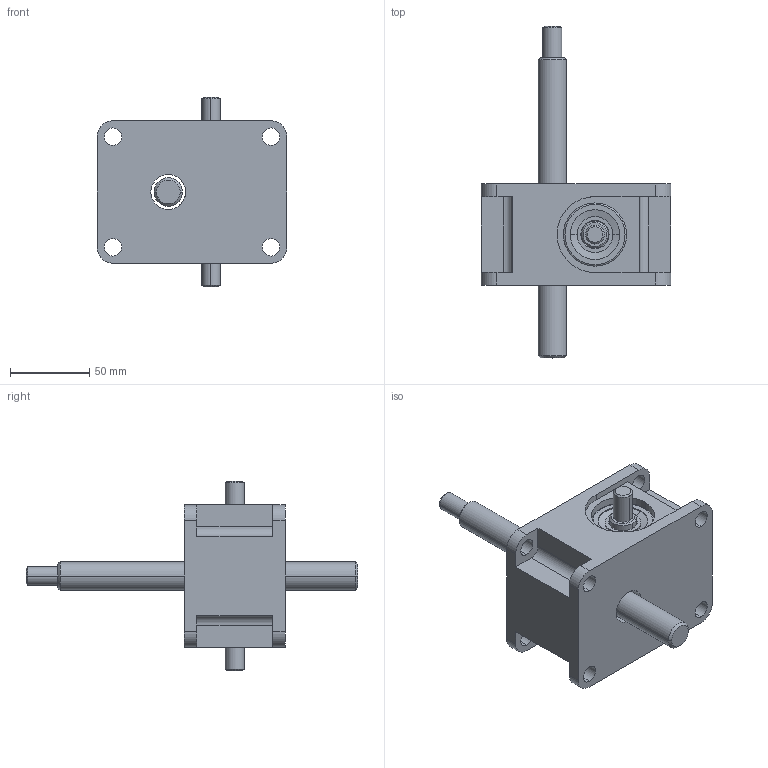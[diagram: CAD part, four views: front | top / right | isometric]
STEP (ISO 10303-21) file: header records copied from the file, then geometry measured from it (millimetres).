
FILE_DESCRIPTION (( 'STEP AP203' ), '1' );
FILE_NAME ('LMA0.5_1.0.STEP', '2008-07-31T00:24:07', ( 'Cliente' ), ( 'Home' ), 'SwSTEP 2.0', 'SolidWorks 2008', '' );
FILE_SCHEMA (( 'CONFIG_CONTROL_DESIGN' ));
Length unit declared in the file: millimetre
Products named in the file (5): carcaça_Valor predeterminado; LMA0.5_1.0; fuso_Valor predeterminado; Taper Roller Bearing_DIN_DIN 720 - 30203 - 12,SI,NC,12; sem_fim_Valor predeterminado
Assembly tree (5 placements, depth 2):
  LMA0.5_1.0
    sem_fim_Valor predeterminado
    Taper Roller Bearing_DIN_DIN 720 - 30203 - 12,SI,NC,12  x2
    fuso_Valor predeterminado
    carcaça_Valor predeterminado
Bounding box: 120 x 210 x 120 mm (x, y, z)
Volume: 566431.4 mm3; surface area: 93510.3 mm2
Topology: 5 solids, 5 shells, 170 faces, 392 edges, 242 vertices
Faces by surface type: cylinder 65, cone 54, plane 43, torus 8
Entity records: 4627 total; most frequent: DIRECTION 766, CARTESIAN_POINT 763, ORIENTED_EDGE 644, EDGE_CURVE 322, AXIS2_PLACEMENT_3D 303, VERTEX_POINT 202, EDGE_LOOP 166, VECTOR 160
